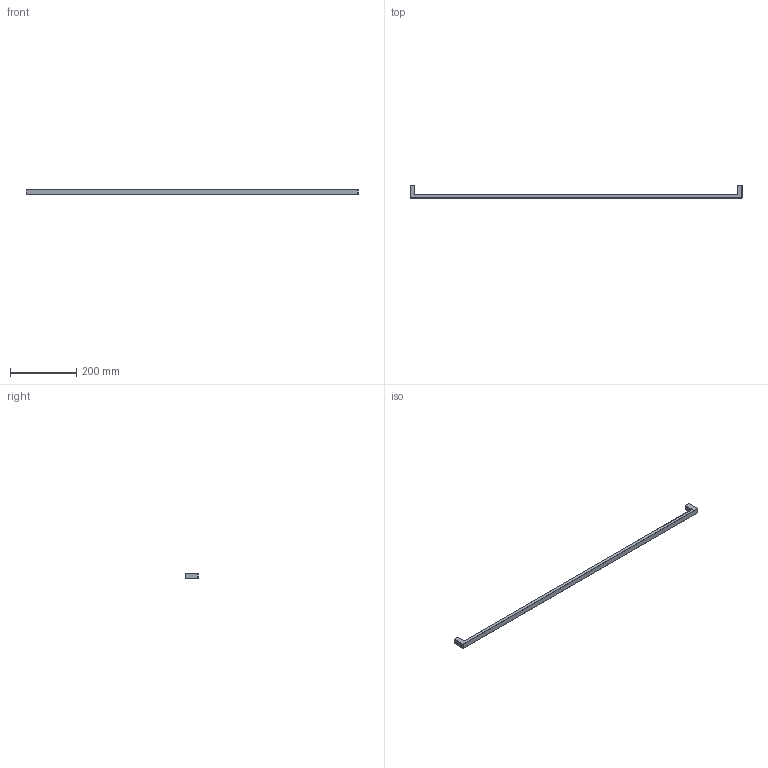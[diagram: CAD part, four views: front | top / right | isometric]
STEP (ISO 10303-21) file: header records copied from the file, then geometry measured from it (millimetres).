
FILE_DESCRIPTION( ( 'STEP AP214' ), '1' );
FILE_NAME( 'C:/Users/kulkarni/Desktop/Apurva/2015/Prodecor_2016/Cadfiles/same as files/aosta/9207358.stp', ' ', ( ' ' ), ( ' ' ), 'PSStep 15.0.47', 'PARTsolutions', ' ' );
FILE_SCHEMA( ( 'AUTOMOTIVE_DESIGN { 1 0 10303 214 1 1 1 1 }' ) );
Length unit declared in the file: millimetre
Products named in the file (1): _9207358
Bounding box: 999 x 37 x 16 mm (x, y, z)
Volume: 172374 mm3; surface area: 54904.1 mm2
Topology: 1 solids, 1 shells, 34 faces, 82 edges, 52 vertices
Faces by surface type: cylinder 18, plane 16
Full cylindrical faces by diameter (mm): 4 x2
Entity records: 1272 total; most frequent: DIRECTION 182, CARTESIAN_POINT 167, ORIENTED_EDGE 160, EDGE_CURVE 80, AXIS2_PLACEMENT_3D 67, VERTEX_POINT 52, LINE 48, VECTOR 48
